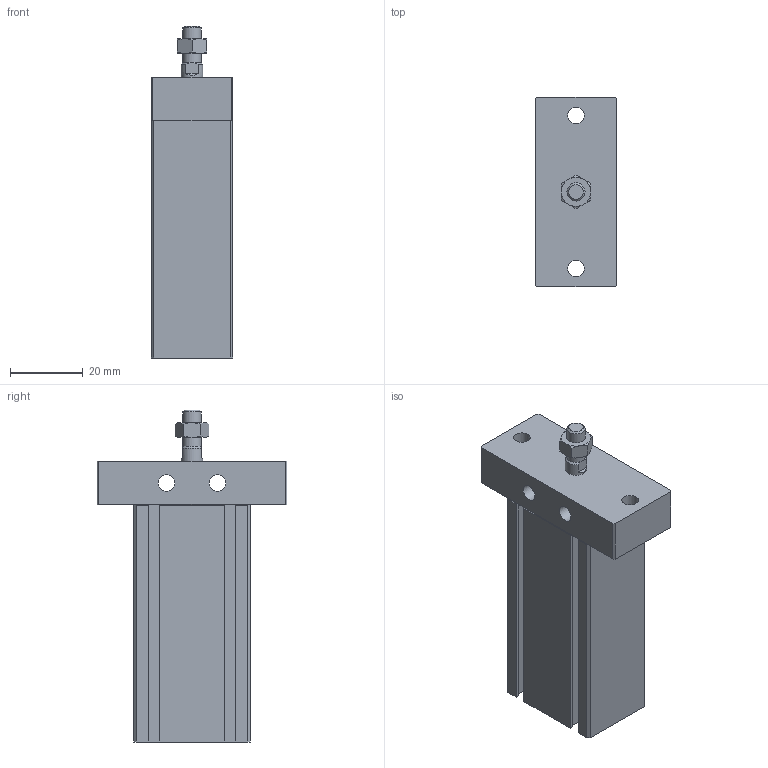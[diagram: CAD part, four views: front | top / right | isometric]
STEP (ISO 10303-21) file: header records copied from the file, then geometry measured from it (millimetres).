
FILE_DESCRIPTION((''),'2;1');
FILE_NAME('J:\3D電子目錄\氣缸\ND\ND\ND16-FB\ND16x40-FB.stp','2008-03-12T17:05:49',('66-2f-008'),(''),'Autodesk Inventor 11','Autodesk Inventor 11','');
FILE_SCHEMA(('AUTOMOTIVE_DESIGN { 1 0 10303 214 1 1 1 1 }'));
Length unit declared in the file: millimetre
Products named in the file (1): ND16-FB
Bounding box: 22.4 x 52 x 91 mm (x, y, z)
Volume: 52885.7 mm3; surface area: 16474.3 mm2
Topology: 2 solids, 2 shells, 130 faces, 310 edges, 195 vertices
Faces by surface type: plane 83, cone 22, bspline 14, cylinder 10, torus 1
Full cylindrical faces by diameter (mm): 1.5 x2, 4.5 x2, 5 x2, 6 x1, 10 x1, 18 x1, 19 x1
Entity records: 3636 total; most frequent: CARTESIAN_POINT 833, ORIENTED_EDGE 550, DIRECTION 542, EDGE_CURVE 275, VERTEX_POINT 189, VECTOR 186, LINE 186, AXIS2_PLACEMENT_3D 178
